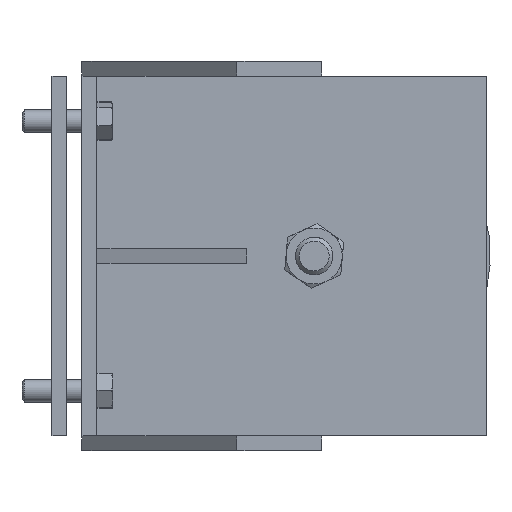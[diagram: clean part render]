
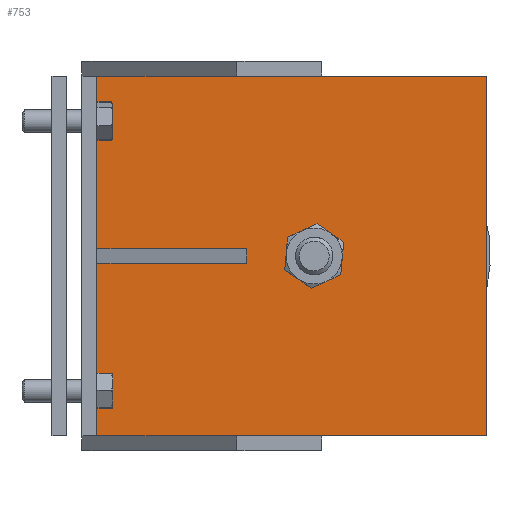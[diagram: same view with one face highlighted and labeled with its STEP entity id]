
A CAD part, front view. The second image highlights one B-rep face of the part: STEP entity #753.
In plain terms, the highlighted planar face has unit normal (0, -1, 0) as drawn and (1, 0, 0) by its records, which use the part's own axes.
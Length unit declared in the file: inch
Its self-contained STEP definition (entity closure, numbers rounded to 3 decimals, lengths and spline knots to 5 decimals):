
#592=CARTESIAN_POINT('',(0.25,0.,-0.75));
#593=VERTEX_POINT('',#592);
#594=CARTESIAN_POINT('',(0.25,0.,-0.375));
#595=DIRECTION('',(-1.0,0.0,0.0));
#596=DIRECTION('',(0.0,0.0,1.0));
#597=AXIS2_PLACEMENT_3D('',#594,#595,#596);
#598=CIRCLE('',#597,0.375);
#599=EDGE_CURVE('',#593,#593,#598,.T.);
#620=CARTESIAN_POINT('',(0.25,3.0,3.25));
#621=VERTEX_POINT('',#620);
#622=CARTESIAN_POINT('',(0.25,3.0,-3.25));
#623=VERTEX_POINT('',#622);
#624=CARTESIAN_POINT('',(0.25,3.0,3.25));
#625=DIRECTION('',(0.0,0.0,-1.0));
#626=VECTOR('',#625,6.5);
#627=LINE('',#624,#626);
#628=EDGE_CURVE('',#621,#623,#627,.T.);
#660=CARTESIAN_POINT('',(0.25,-3.0,-3.25));
#661=VERTEX_POINT('',#660);
#662=CARTESIAN_POINT('',(0.25,3.0,-3.25));
#663=DIRECTION('',(0.0,-1.0,0.0));
#664=VECTOR('',#663,6.);
#665=LINE('',#662,#664);
#666=EDGE_CURVE('',#623,#661,#665,.T.);
#691=CARTESIAN_POINT('',(0.25,-3.0,3.25));
#692=VERTEX_POINT('',#691);
#693=CARTESIAN_POINT('',(0.25,-3.0,-3.25));
#694=DIRECTION('',(0.0,0.0,1.0));
#695=VECTOR('',#694,6.5);
#696=LINE('',#693,#695);
#697=EDGE_CURVE('',#661,#692,#696,.T.);
#722=CARTESIAN_POINT('',(0.25,-3.0,3.25));
#723=DIRECTION('',(0.0,1.0,0.0));
#724=VECTOR('',#723,6.0);
#725=LINE('',#722,#724);
#726=EDGE_CURVE('',#692,#621,#725,.T.);
#739=CARTESIAN_POINT('',(0.25,0.0,0.));
#740=DIRECTION('',(1.0,0.0,0.0));
#741=DIRECTION('',(0.0,0.0,-1.0));
#742=AXIS2_PLACEMENT_3D('',#739,#740,#741);
#743=PLANE('',#742);
#744=ORIENTED_EDGE('',*,*,#628,.F.);
#745=ORIENTED_EDGE('',*,*,#726,.F.);
#746=ORIENTED_EDGE('',*,*,#697,.F.);
#747=ORIENTED_EDGE('',*,*,#666,.F.);
#748=EDGE_LOOP('',(#744,#745,#746,#747));
#749=FACE_OUTER_BOUND('',#748,.T.);
#750=ORIENTED_EDGE('',*,*,#599,.T.);
#751=EDGE_LOOP('',(#750));
#752=FACE_BOUND('',#751,.T.);
#753=ADVANCED_FACE('',(#749,#752),#743,.T.);
